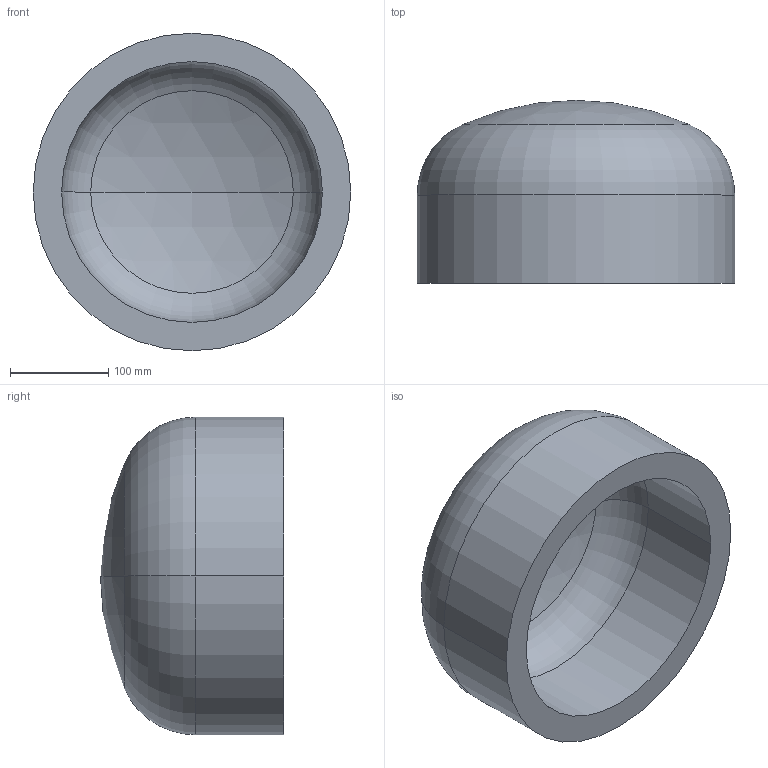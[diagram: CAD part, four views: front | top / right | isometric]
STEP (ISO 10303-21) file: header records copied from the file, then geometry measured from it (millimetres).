
FILE_DESCRIPTION (( 'STEP AP203' ), '1' );
FILE_NAME ('DIN 28013 Korbbogenform_-_Boden DIN 28013 - 323,9 x 90 - I - s=29.step', '2016-07-01T07:45:08', ( '' ), ( '' ), 'SwSTEP 2.0', 'SolidWorks 2013', '' );
FILE_SCHEMA (( 'CONFIG_CONTROL_DESIGN' ));
Length unit declared in the file: millimetre
Products named in the file (1): DIN 28013 Korbbogenform_-_Boden DIN 28013 - 323,9 x 90 - I - s=29
Bounding box: 323.9 x 186.63 x 323.9 mm (x, y, z)
Volume: 5381466 mm3; surface area: 399764.1 mm2
Topology: 1 solids, 1 shells, 13 faces, 24 edges, 14 vertices
Faces by surface type: torus 4, cylinder 4, sphere 4, plane 1
Entity records: 407 total; most frequent: DIRECTION 72, CARTESIAN_POINT 52, ORIENTED_EDGE 48, AXIS2_PLACEMENT_3D 34, EDGE_CURVE 24, CIRCLE 20, EDGE_LOOP 14, VERTEX_POINT 14
